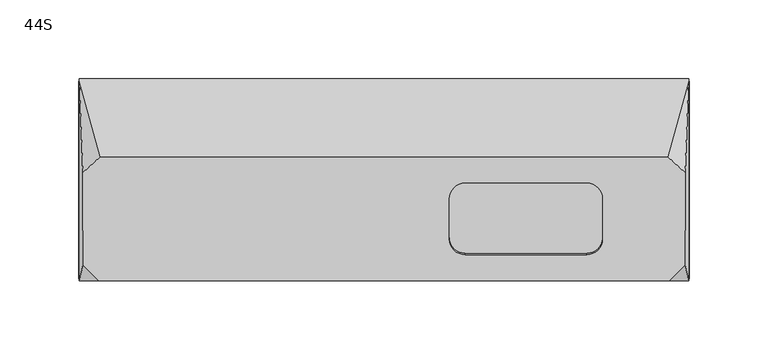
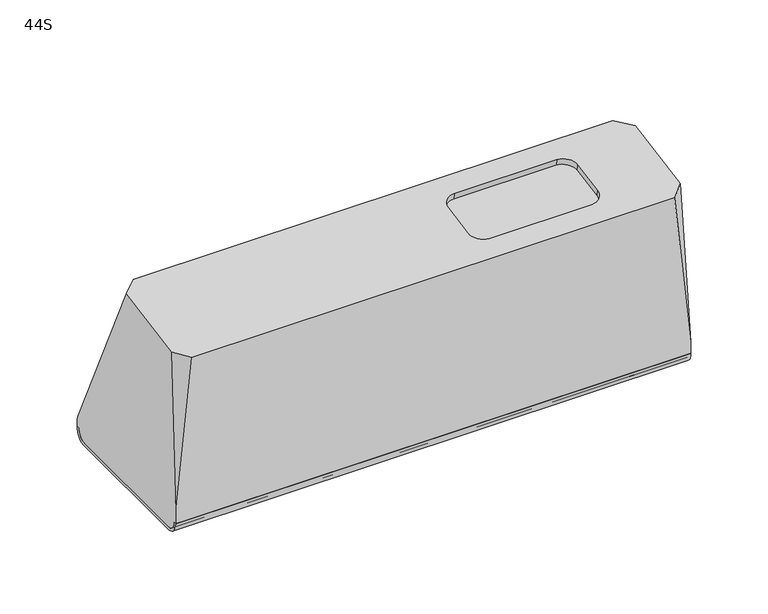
"""IFC4 building model written with IfcOpenShell, lengths in millimetres: proxy geometry, d&b xS-Series 44S Point Source : 44S."""

from ifc_helpers import new_model, si_unit, point, frame, frame_2d, origin, place, context, project, spatial, polyline, circle_curve, ellipse_curve, trimmed, segment, composite_curve, outline, extrude, source, transform, mapped, element, save
from ifc_brep_helpers import plane_surface, cylinder_surface, revolved_surface, advanced_brep


def proxy_44s_1473d0bb(model_context):
    return source(origin(), model_context, "Body", "SolidModel", [
        advanced_brep(
        [(193.4294708, 54.0, -73.9650952), (193.4294708, -54.078429, -73.9650952), (193.2924342, -62.0435242, -66.0), (193.2924342, -64.0, -66.0), (193.4644806, -54.0, -76.0), (193.4644806, 54.0, -76.0), (193.2918337, 64.0349048, -65.9650952), (193.2918337, 62.0, -65.9650952), (-193.4294708, -54.078429, -73.9650952), (-193.4294708, 54.0, -73.9650952), (-193.2918337, 62.0, -65.9650952), (-193.2918337, 64.0349048, -65.9650952), (-193.4644806, 54.0, -76.0), (-193.4644806, -54.0, -76.0), (-193.2924342, -64.0, -66.0), (-193.2924342, -62.0435242, -66.0), (-164.7978139, 25.3333333, -73.9650952), (-148.4644806, 25.3333333, -73.9650952), (-148.4644806, 9.0, -73.9650952), (-164.7978139, 9.0, -73.9650952), (-164.7978139, 44.0, -73.9650952), (-148.4644806, 44.0, -73.9650952), (-148.4644806, 27.6666667, -73.9650952), (-164.7978139, 27.6666667, -73.9650952), (-183.4644806, 44.0, -73.9650952), (-167.1311473, 44.0, -73.9650952), (-167.1311473, 27.6666667, -73.9650952), (-183.4644806, 27.6666667, -73.9650952), (-167.1311473, 17.1666667, -73.9650952), (-183.4644806, 17.1666667, -73.9650952), (-148.4644806, 25.3333333, -76.0), (-164.7978139, 25.3333333, -76.0), (-164.7978139, 9.0, -76.0), (-148.4644806, 9.0, -76.0), (-148.4644806, 44.0, -76.0), (-164.7978139, 44.0, -76.0), (-164.7978139, 27.6666667, -76.0), (-148.4644806, 27.6666667, -76.0), (-167.1311473, 44.0, -76.0), (-183.4644806, 44.0, -76.0), (-183.4644806, 27.6666667, -76.0), (-167.1311473, 27.6666667, -76.0), (-183.4644806, 17.1666667, -76.0), (-167.1311473, 17.1666667, -76.0)],
        [
            (0, 1),
            (1, 2, ellipse_curve(frame((193.2924342, -54.078429, -66.0), z_axis=(-0.9998520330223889, 0.0, -0.017202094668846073), x_axis=(-0.01720209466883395, 0.0, 0.999852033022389)), 7.9662739, 7.9650952)),
            (2, 3),
            (3, 4, ellipse_curve(frame((193.2924342, -54.0, -66.0), z_axis=(0.9998520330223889, 0.0, 0.017202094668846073), x_axis=(0.01720209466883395, 0.0, -0.999852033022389)), 10.0014799, 10.0)),
            (4, 5),
            (5, 6, ellipse_curve(frame((193.2918337, 54.0, -65.9650952), z_axis=(0.9998520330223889, 0.0, 0.017202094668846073), x_axis=(0.01720209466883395, 0.0, -0.999852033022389)), 10.0363899, 10.0349048)),
            (6, 7),
            (7, 0, ellipse_curve(frame((193.2918337, 54.0, -65.9650952), z_axis=(-0.9998520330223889, 0.0, -0.017202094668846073), x_axis=(-0.01720209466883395, 0.0, 0.999852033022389)), 8.0011839, 8.0)),
            (8, 9),
            (9, 10, ellipse_curve(frame((-193.2918337, 54.0, -65.9650952), z_axis=(0.999852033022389, 0.0, -0.01720209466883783), x_axis=(-0.017202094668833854, 0.0, -0.999852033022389)), 8.0011839, 8.0)),
            (10, 11),
            (11, 12, ellipse_curve(frame((-193.2918337, 54.0, -65.9650952), z_axis=(-0.999852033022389, 0.0, 0.01720209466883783), x_axis=(0.017202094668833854, 0.0, 0.999852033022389)), 10.0363899, 10.0349048)),
            (12, 13),
            (13, 14, ellipse_curve(frame((-193.2924342, -54.0, -66.0), z_axis=(-0.999852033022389, 0.0, 0.01720209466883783), x_axis=(0.017202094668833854, 0.0, 0.999852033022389)), 10.0014799, 10.0)),
            (14, 15),
            (15, 8, ellipse_curve(frame((-193.2924342, -54.078429, -66.0), z_axis=(0.999852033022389, 0.0, -0.01720209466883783), x_axis=(-0.017202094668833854, 0.0, -0.999852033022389)), 7.9662739, 7.9650952)),
            (0, 9),
            (8, 1),
            (16, 17),
            (17, 18),
            (18, 19),
            (19, 16),
            (20, 21),
            (21, 22),
            (22, 23),
            (23, 20),
            (24, 25),
            (25, 26),
            (26, 27),
            (27, 24),
            (28, 29, circle_curve(frame((-175.2978139, 17.1666667, -73.9650952), z_axis=(0.0, 0.0, -1.0), x_axis=(1.0, 0.0, 0.0)), 8.1666667)),
            (29, 28, circle_curve(frame((-175.2978139, 17.1666667, -73.9650952), z_axis=(0.0, 0.0, -1.0), x_axis=(1.0, 0.0, 0.0)), 8.1666667)),
            (15, 2),
            (14, 3),
            (13, 4),
            (12, 5),
            (30, 31),
            (31, 32),
            (32, 33),
            (33, 30),
            (34, 35),
            (35, 36),
            (36, 37),
            (37, 34),
            (38, 39),
            (39, 40),
            (40, 41),
            (41, 38),
            (42, 43, circle_curve(frame((-175.2978139, 17.1666667, -76.0), z_axis=(0.0, 0.0, 1.0), x_axis=(1.0, 0.0, 0.0)), 8.1666667)),
            (43, 42, circle_curve(frame((-175.2978139, 17.1666667, -76.0), z_axis=(0.0, 0.0, 1.0), x_axis=(1.0, 0.0, 0.0)), 8.1666667)),
            (11, 6),
            (10, 7),
            (16, 31),
            (30, 17),
            (19, 32),
            (18, 33),
            (20, 35),
            (34, 21),
            (23, 36),
            (22, 37),
            (24, 39),
            (38, 25),
            (27, 40),
            (26, 41),
            (28, 43),
            (42, 29),
        ],
        [
            plane_surface(frame((193.8309972, 100.0, -97.3033587), z_axis=(0.9998520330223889, 0.0, 0.017202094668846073), x_axis=(0.0, -1.0, 0.0))),
            plane_surface(frame((-190.7119283, 100.0, 83.9889493), z_axis=(-0.999852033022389, 0.0, 0.01720209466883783), x_axis=(0.0, -1.0, 0.0))),
            plane_surface(frame((202.5, 54.0, -73.9650952), z_axis=(0.0, 0.0, 1.0), x_axis=(-1.0, 0.0, 0.0))),
            revolved_surface(polyline([(-193.4294708, -46.1133338, -66.0), (193.4294708, -46.1133338, -66.0)]), (-202.5, -54.078429, -66.0), (-1.0, 0.0, 0.0)),
            plane_surface(frame((202.5, -62.0435242, -66.0), z_axis=(0.0, 0.0, 1.0), x_axis=(-1.0, 0.0, 0.0))),
            cylinder_surface(frame((-202.5, -54.0, -66.0), z_axis=(1.0, 0.0, 0.0), x_axis=(0.0, 1.0, 0.0)), 10.0),
            plane_surface(frame((202.5, -54.0, -76.0), z_axis=(0.0, 0.0, -1.0), x_axis=(-1.0, 0.0, 0.0))),
            cylinder_surface(frame((-202.5, 54.0, -65.9650952), z_axis=(1.0, 0.0, 0.0), x_axis=(0.0, 1.0, 0.0)), 10.0349048),
            plane_surface(frame((202.5, 64.0349048, -65.9650952), z_axis=(0.0, 0.0, 1.0), x_axis=(-1.0, 0.0, 0.0))),
            revolved_surface(polyline([(-193.42947082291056, 62.0, -65.9650952), (193.42947082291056, 62.0, -65.9650952)]), (-202.5, 54.0, -65.9650952), (-1.0, 0.0, 0.0)),
            plane_surface(frame((-164.7978139, 25.3333333, -76.0), z_axis=(0.0, -1.0, 0.0), x_axis=(0.0, 0.0, 1.0))),
            plane_surface(frame((-164.7978139, 9.0, -76.0), z_axis=(1.0, 0.0, 0.0), x_axis=(0.0, 0.0, 1.0))),
            plane_surface(frame((-148.4644806, 9.0, -76.0), z_axis=(0.0, 1.0, 0.0), x_axis=(0.0, 0.0, 1.0))),
            plane_surface(frame((-148.4644806, 25.3333333, -76.0), z_axis=(-1.0, 0.0, 0.0), x_axis=(0.0, 0.0, 1.0))),
            plane_surface(frame((-164.7978139, 44.0, -76.0), z_axis=(0.0, -1.0, 0.0), x_axis=(0.0, 0.0, 1.0))),
            plane_surface(frame((-164.7978139, 27.6666667, -76.0), z_axis=(1.0, 0.0, 0.0), x_axis=(0.0, 0.0, 1.0))),
            plane_surface(frame((-148.4644806, 27.6666667, -76.0), z_axis=(0.0, 1.0, 0.0), x_axis=(0.0, 0.0, 1.0))),
            plane_surface(frame((-148.4644806, 44.0, -76.0), z_axis=(-1.0, 0.0, 0.0), x_axis=(0.0, 0.0, 1.0))),
            plane_surface(frame((-183.4644806, 44.0, -76.0), z_axis=(0.0, -1.0, 0.0), x_axis=(0.0, 0.0, 1.0))),
            plane_surface(frame((-183.4644806, 27.6666667, -76.0), z_axis=(1.0, 0.0, 0.0), x_axis=(0.0, 0.0, 1.0))),
            plane_surface(frame((-167.1311473, 27.6666667, -76.0), z_axis=(0.0, 1.0, 0.0), x_axis=(0.0, 0.0, 1.0))),
            plane_surface(frame((-167.1311473, 44.0, -76.0), z_axis=(-1.0, 0.0, 0.0), x_axis=(0.0, 0.0, 1.0))),
            revolved_surface(polyline([(-167.1311472, 17.1666667, -76.0), (-167.1311472, 17.1666667, -73.9650952)]), (-175.2978139, 17.1666667, -15.7477083), (0.0, 0.0, -1.0)),
        ],
        [
            (0, [[1, 2, 3, 4, 5, 6, 7, 8]]),
            (1, [[9, 10, 11, 12, 13, 14, 15, 16]]),
            (2, [[17, -9, 18, -1], [19, 20, 21, 22], [23, 24, 25, 26], [27, 28, 29, 30], [31, 32]]),
            (3, [[-18, -16, 33, -2]]),
            (4, [[-33, -15, 34, -3]]),
            (5, [[-34, -14, 35, -4]]),
            (6, [[-35, -13, 36, -5], [37, 38, 39, 40], [41, 42, 43, 44], [45, 46, 47, 48], [49, 50]]),
            (7, [[-36, -12, 51, -6]]),
            (8, [[-51, -11, 52, -7]]),
            (9, [[-17, -8, -52, -10]]),
            (10, [[53, -37, 54, -19]]),
            (11, [[-53, -22, 55, -38]]),
            (12, [[-55, -21, 56, -39]]),
            (13, [[-56, -20, -54, -40]]),
            (14, [[57, -41, 58, -23]]),
            (15, [[-57, -26, 59, -42]]),
            (16, [[-59, -25, 60, -43]]),
            (17, [[-60, -24, -58, -44]]),
            (18, [[61, -45, 62, -27]]),
            (19, [[-61, -30, 63, -46]]),
            (20, [[-63, -29, 64, -47]]),
            (21, [[-64, -28, -62, -48]]),
            (22, [[65, -49, 66, -31]]),
            (22, [[-65, -32, -66, -50]]),
        ],
    ),
        extrude(outline(polyline([(-148.4644806, 25.3333333), (-148.4644806, 9.0), (-164.7978139, 9.0), (-164.7978139, 25.3333333), (-148.4644806, 25.3333333)])), frame((0.0, 0.0, -76.0), z_axis=(0.0, 0.0, 1.0), x_axis=(1.0, 0.0, 0.0)), (0.0, 0.0, 1.0), 5.0),
        extrude(outline(polyline([(-148.4644806, 44.0), (-148.4644806, 27.6666667), (-164.7978139, 27.6666667), (-164.7978139, 44.0), (-148.4644806, 44.0)])), frame((0.0, 0.0, -76.0), z_axis=(0.0, 0.0, 1.0), x_axis=(1.0, 0.0, 0.0)), (0.0, 0.0, 1.0), 5.0),
        extrude(outline(polyline([(-167.1311473, 44.0), (-167.1311473, 27.6666667), (-183.4644806, 27.6666667), (-183.4644806, 44.0), (-167.1311473, 44.0)])), frame((0.0, 0.0, -76.0), z_axis=(0.0, 0.0, 1.0), x_axis=(1.0, 0.0, 0.0)), (0.0, 0.0, 1.0), 5.0),
        extrude(outline(composite_curve([segment(trimmed(circle_curve(frame_2d((-175.2978139, 17.1666667)), 8.1666667), [point((-183.4644806, 17.1666667))], [point((-167.1311473, 17.1666667))], False, "CARTESIAN"), True, "CONTINUOUS"), segment(trimmed(circle_curve(frame_2d((-175.2978139, 17.1666667)), 8.1666667), [point((-167.1311473, 17.1666667))], [point((-183.4644806, 17.1666667))], False, "CARTESIAN"), True, "CONTINUOUS")], self_intersect=False)), frame((0.0, 0.0, -76.0), z_axis=(0.0, 0.0, 1.0), x_axis=(1.0, 0.0, 0.0)), (0.0, 0.0, 1.0), 5.0),
        advanced_brep(
        [(193.2924342, -64.0, -66.0), (193.2924342, -62.0435242, -66.0), (193.4294708, -54.078429, -73.9650952), (193.4294708, 54.0, -73.9650952), (193.2918337, 62.0, -65.9650952), (193.2918337, 64.0, -65.9650952), (193.1898069, 64.0, -60.0349048), (193.132384, 62.7855103, -56.6972655), (190.8800877, 4.3760941, 74.2148737), (191.0574064, -54.074657, 63.9084293), (193.132384, -64.0, -56.6972655), (-193.2924342, -62.0435242, -66.0), (-193.2924342, -64.0, -66.0), (-193.132384, -64.0, -56.6972655), (-191.0574064, -54.074657, 63.9084293), (-190.8800877, 4.3760941, 74.2148737), (-193.132384, 62.7855103, -56.6972655), (-193.1898069, 64.0, -60.0349048), (-193.2918337, 64.0, -65.9650952), (-193.2918337, 62.0, -65.9650952), (-193.4294708, 54.0, -73.9650952), (-193.4294708, -54.078429, -73.9650952), (181.3061997, -64.0, 62.1583235), (-181.3061997, -64.0, 62.1583235), (-179.9289467, 14.5000481, 76.0), (179.9289467, 14.5000481, 76.0), (138.5, -11.9474751, 71.3365881), (138.5, -37.5524767, 66.8217355), (128.5, -47.4005542, 65.0852537), (51.5, -47.4005542, 65.0852537), (41.5, -37.5524767, 66.8217355), (41.5, -11.9474751, 71.3365881), (51.5, -2.0993976, 73.0730698), (128.5, -2.0993976, 73.0730698), (138.5, -11.0792343, 66.4125493), (128.5, -1.2311567, 68.1490311), (51.5, -1.2311567, 68.1490311), (41.5, -11.0792343, 66.4125493), (41.5, -36.6842358, 61.8976967), (51.5, -46.5323134, 60.1612149), (128.5, -46.5323134, 60.1612149), (138.5, -36.6842358, 61.8976967)],
        [
            (0, 1),
            (1, 2, ellipse_curve(frame((193.2924342, -54.078429, -66.0), z_axis=(0.9998520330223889, 0.0, 0.017202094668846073), x_axis=(0.01720209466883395, 0.0, -0.999852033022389)), 7.9662739, 7.9650952)),
            (2, 3),
            (3, 4, ellipse_curve(frame((193.2918337, 54.0, -65.9650952), z_axis=(0.9998520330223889, 0.0, 0.017202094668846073), x_axis=(0.01720209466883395, 0.0, -0.999852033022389)), 8.0011839, 8.0)),
            (4, 5),
            (5, 6),
            (6, 7),
            (7, 8),
            (8, 9),
            (9, 10),
            (10, 0),
            (11, 12),
            (12, 13),
            (13, 14),
            (14, 15),
            (15, 16),
            (16, 17),
            (17, 18),
            (18, 19),
            (19, 20, ellipse_curve(frame((-193.2918337, 54.0, -65.9650952), z_axis=(-0.999852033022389, 0.0, 0.01720209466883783), x_axis=(0.017202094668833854, 0.0, 0.999852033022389)), 8.0011839, 8.0)),
            (20, 21),
            (21, 11, ellipse_curve(frame((-193.2924342, -54.078429, -66.0), z_axis=(-0.999852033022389, 0.0, 0.01720209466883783), x_axis=(0.017202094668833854, 0.0, 0.999852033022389)), 7.9662739, 7.9650952)),
            (0, 12),
            (11, 1),
            (21, 2),
            (20, 3),
            (19, 4),
            (18, 5),
            (17, 6),
            (10, 22),
            (22, 23),
            (23, 13),
            (16, 24),
            (24, 25),
            (25, 7),
            (9, 22),
            (23, 14),
            (15, 24),
            (25, 8),
            (26, 27),
            (27, 28, circle_curve(frame((128.5, -37.5524767, 66.8217355), z_axis=(0.0, 0.17364817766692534, -0.984807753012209), x_axis=(0.0, 0.984807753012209, 0.17364817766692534)), 10.0)),
            (28, 29),
            (29, 30, circle_curve(frame((51.5, -37.5524767, 66.8217355), z_axis=(0.0, 0.17364817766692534, -0.984807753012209), x_axis=(0.0, 0.984807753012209, 0.17364817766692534)), 10.0)),
            (30, 31),
            (31, 32, circle_curve(frame((51.5, -11.9474751, 71.3365881), z_axis=(0.0, 0.17364817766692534, -0.984807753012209), x_axis=(0.0, 0.984807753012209, 0.17364817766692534)), 10.0)),
            (32, 33),
            (33, 26, circle_curve(frame((128.5, -11.9474751, 71.3365881), z_axis=(0.0, 0.17364817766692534, -0.984807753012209), x_axis=(0.0, 0.984807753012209, 0.17364817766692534)), 10.0)),
            (34, 35, circle_curve(frame((128.5, -11.0792343, 66.4125493), z_axis=(0.0, -0.17364817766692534, 0.984807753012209), x_axis=(0.0, 0.984807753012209, 0.17364817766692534)), 10.0)),
            (35, 36),
            (36, 37, circle_curve(frame((51.5, -11.0792343, 66.4125493), z_axis=(0.0, -0.17364817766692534, 0.984807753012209), x_axis=(0.0, 0.984807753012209, 0.17364817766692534)), 10.0)),
            (37, 38),
            (38, 39, circle_curve(frame((51.5, -36.6842358, 61.8976967), z_axis=(0.0, -0.17364817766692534, 0.984807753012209), x_axis=(0.0, 0.984807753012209, 0.17364817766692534)), 10.0)),
            (39, 40),
            (40, 41, circle_curve(frame((128.5, -36.6842358, 61.8976967), z_axis=(0.0, -0.17364817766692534, 0.984807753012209), x_axis=(0.0, 0.984807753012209, 0.17364817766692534)), 10.0)),
            (41, 34),
            (41, 27),
            (26, 34),
            (40, 28),
            (39, 29),
            (38, 30),
            (37, 31),
            (36, 32),
            (35, 33),
        ],
        [
            plane_surface(frame((193.8309972, 100.0, -97.3033587), z_axis=(0.9998520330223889, 0.0, 0.017202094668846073), x_axis=(0.0, -1.0, 0.0))),
            plane_surface(frame((-190.7119283, 100.0, 83.9889493), z_axis=(-0.999852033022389, 0.0, 0.01720209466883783), x_axis=(0.0, -1.0, 0.0))),
            plane_surface(frame((207.1452552, -64.0, -66.0), z_axis=(0.0, 0.0, -1.0), x_axis=(-1.0, 0.0, 0.0))),
            cylinder_surface(frame((-207.1452552, -54.078429, -66.0), z_axis=(1.0, 0.0, 0.0), x_axis=(0.0, -1.0, 0.0)), 7.9650952),
            plane_surface(frame((207.1452552, -54.078429, -73.9650952), z_axis=(0.0, 0.0, -1.0), x_axis=(-1.0, 0.0, 0.0))),
            cylinder_surface(frame((-207.1452552, 54.0, -65.9650952), z_axis=(1.0, 0.0, 0.0), x_axis=(0.0, -1.0, 0.0)), 8.0),
            plane_surface(frame((207.1452552, 62.0, -65.9650952), z_axis=(0.0, 0.0, -1.0), x_axis=(-1.0, 0.0, 0.0))),
            plane_surface(frame((207.1452552, 64.0, -65.9650952), z_axis=(0.0, 1.0, 0.0), x_axis=(-1.0, 0.0, 0.0))),
            plane_surface(frame((207.1452552, -64.0, -60.0349048), z_axis=(0.0, -1.0, 0.0), x_axis=(-1.0, 0.0, 0.0))),
            plane_surface(frame((0.0, 14.5000481, 76.0), z_axis=(0.0, 0.9397208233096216, 0.3419426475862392), x_axis=(1.0, 0.0, 0.0))),
            plane_surface(frame((186.6967137, -57.232233, 76.0), z_axis=(0.705363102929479, -0.7053631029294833, 0.07018394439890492), x_axis=(-0.7071067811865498, -0.7071067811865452, 0.0))),
            plane_surface(frame((-186.6967137, -57.232233, 76.0), z_axis=(-0.705363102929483, -0.7053631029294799, 0.07018394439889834), x_axis=(-0.7071067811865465, 0.7071067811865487, 0.0))),
            plane_surface(frame((-186.6967137, 7.7322812, 76.0), z_axis=(-0.6719558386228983, 0.6719558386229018, 0.3113690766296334), x_axis=(0.7071067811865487, 0.7071067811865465, 0.0))),
            plane_surface(frame((186.6967137, 7.7322812, 76.0), z_axis=(0.6719558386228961, 0.6719558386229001, 0.31136907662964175), x_axis=(0.7071067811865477, -0.7071067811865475, 0.0))),
            plane_surface(frame((250.0, -81.2585403, 59.1151772), z_axis=(0.0, -0.17364817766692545, 0.984807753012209), x_axis=(-1.0, 0.0, 0.0))),
            plane_surface(frame((138.5, -63.1317591, 57.2342848), z_axis=(0.0, -0.17364817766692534, 0.9848077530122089), x_axis=(0.0, -0.9848077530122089, -0.17364817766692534))),
            plane_surface(frame((138.5, -11.0792343, 66.4125493), z_axis=(-1.0, 0.0, 0.0), x_axis=(0.0, -0.17364817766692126, 0.9848077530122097))),
            revolved_surface(polyline([(128.5, -26.836158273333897, 63.634178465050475), (128.5, -27.70439916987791, 68.55821727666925)]), (128.5, -37.5524767, 66.8217355), (0.0, 0.17364817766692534, -0.984807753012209)),
            plane_surface(frame((128.5, -46.5323134, 60.1612149), z_axis=(0.0, 0.9848077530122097, 0.17364817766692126), x_axis=(0.0, -0.17364817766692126, 0.9848077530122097))),
            revolved_surface(polyline([(51.5, -26.836158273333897, 63.634178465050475), (51.5, -27.70439916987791, 68.55821727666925)]), (51.5, -37.5524767, 66.8217355), (0.0, 0.17364817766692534, -0.984807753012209)),
            plane_surface(frame((41.5, -36.6842358, 61.8976967), z_axis=(1.0, 0.0, 0.0), x_axis=(0.0, -0.17364817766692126, 0.9848077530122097))),
            revolved_surface(polyline([(51.5, -1.2311566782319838, 68.14903109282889), (51.5, -2.09939756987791, 73.07306987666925)]), (51.5, -11.9474751, 71.3365881), (0.0, 0.17364817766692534, -0.984807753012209)),
            plane_surface(frame((51.5, -1.2311567, 68.1490311), z_axis=(0.0, -0.9848077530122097, -0.17364817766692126), x_axis=(0.0, -0.17364817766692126, 0.9848077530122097))),
            revolved_surface(polyline([(128.5, -1.2311566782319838, 68.14903109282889), (128.5, -2.09939756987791, 73.07306987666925)]), (128.5, -11.9474751, 71.3365881), (0.0, 0.17364817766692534, -0.984807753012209)),
        ],
        [
            (0, [[1, 2, 3, 4, 5, 6, 7, 8, 9, 10, 11]]),
            (1, [[12, 13, 14, 15, 16, 17, 18, 19, 20, 21, 22]]),
            (2, [[23, -12, 24, -1]]),
            (3, [[-24, -22, 25, -2]]),
            (4, [[-25, -21, 26, -3]]),
            (5, [[-26, -20, 27, -4]]),
            (6, [[-27, -19, 28, -5]]),
            (7, [[-28, -18, 29, -6]]),
            (8, [[-23, -11, 30, 31, 32, -13]]),
            (9, [[-29, -17, 33, 34, 35, -7]]),
            (10, [[-30, -10, 36]]),
            (11, [[-32, 37, -14]]),
            (12, [[-33, -16, 38]]),
            (13, [[-35, 39, -8]]),
            (14, [[-31, -36, -9, -39, -34, -38, -15, -37], [40, 41, 42, 43, 44, 45, 46, 47]]),
            (15, [[48, 49, 50, 51, 52, 53, 54, 55]]),
            (16, [[-55, 56, -40, 57]]),
            (17, [[-54, 58, -41, -56]]),
            (18, [[-53, 59, -42, -58]]),
            (19, [[-52, 60, -43, -59]]),
            (20, [[-51, 61, -44, -60]]),
            (21, [[-50, 62, -45, -61]]),
            (22, [[-49, 63, -46, -62]]),
            (23, [[-48, -57, -47, -63]]),
        ],
    ),
    ])


if __name__ == "__main__":
    model = new_model("IFC4")
    model_context = context("Model", 3, world=origin())
    ifc_project = project(units=[si_unit("LENGTHUNIT", "METRE", prefix="MILLI")], contexts=[model_context])
    site = spatial("IfcSite", under=ifc_project)
    building = spatial("IfcBuilding", under=site)
    placement = place(None, origin())
    proxy_44s_shape = proxy_44s_1473d0bb(model_context)
    element("IfcBuildingElementProxy", 1, Name="d&b xS-Series 44S Point Source : 44S", ObjectType="d&b xS-Series 44S Point Source : 44S", at=placement, inside=building, context=model_context, shape_type="MappedRepresentation", body=[
        mapped(proxy_44s_shape, transform((0.0, 0.0, 0.0), x_axis=(1.0, 0.0, 0.0), y_axis=(0.0, 1.0, 0.0), z_axis=(0.0, 0.0, 1.0))),
    ])
    save(model, "model.ifc")
